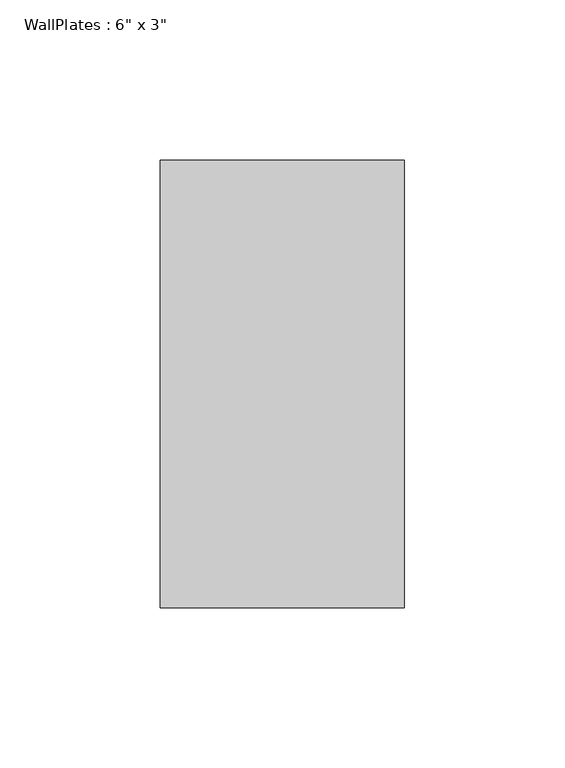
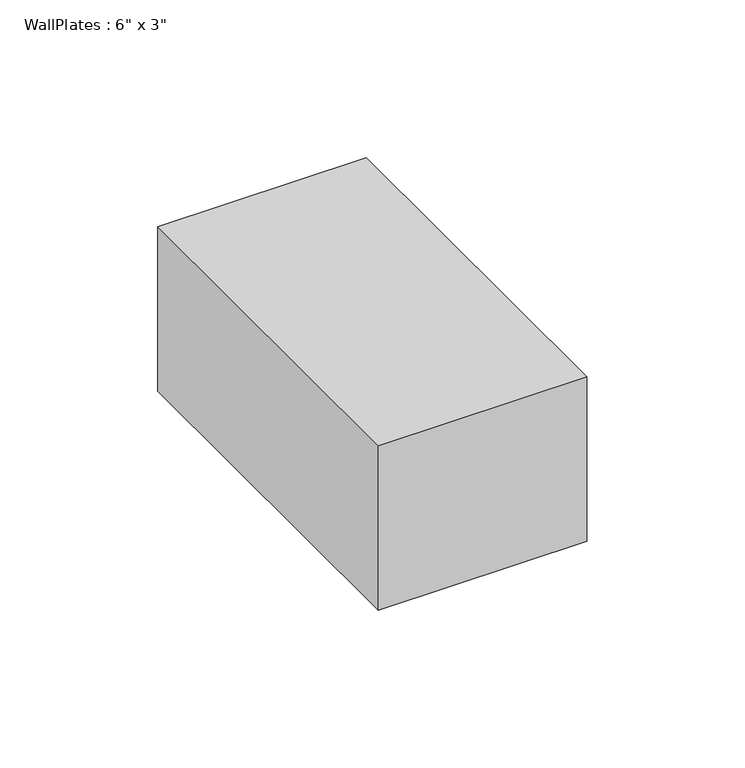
"""IFC4 building model written with IfcOpenShell, lengths in millimetres: beam geometry."""

import ifcopenshell
import ifcopenshell.guid

model = None  # the IFC model being written
_history = None  # IfcOwnerHistory: only IFC2X3 demands one
_inside = {}  # id of a spatial element -> (the spatial element, [elements in it])
_under = {}  # id of a project, library or spatial element -> (it, [spatial elements below it])
_declared = {}  # id of a project -> (the project, [libraries it declares])
_typed = {}  # id of a type object -> (the type object, [elements of that type])
_made_of = {}  # id of a material, layer set ... -> (it, [elements and type objects made of it])


def new_model(schema):
    """Start an empty IFC model of exactly this schema.

    Asked for "IFC4X3", IfcOpenShell would pick the latest addendum, in which some entities
    have other attributes; the version numbers below select the first issue.
    IFC2X3 requires an IfcOwnerHistory on every rooted entity: one is made here for all.
    """
    global model, _history
    if schema == "IFC4X3":
        model = ifcopenshell.file(schema_version=(4, 3, 0, 0))
    else:
        model = ifcopenshell.file(schema=schema)
    _inside.clear()
    _under.clear()
    _declared.clear()
    _typed.clear()
    _made_of.clear()
    _history = None
    if model.schema == "IFC2X3":
        org = make("IfcOrganization", Name="unknown")
        user = make(
            "IfcPersonAndOrganization",
            ThePerson=make("IfcPerson", FamilyName="unknown"),
            TheOrganization=org,
        )
        app = make(
            "IfcApplication",
            ApplicationDeveloper=org,
            Version="unknown",
            ApplicationFullName="unknown",
            ApplicationIdentifier="unknown",
        )
        _history = make(
            "IfcOwnerHistory",
            OwningUser=user,
            OwningApplication=app,
            ChangeAction="ADDED",
            CreationDate=0,
        )
    return model


def make(cls, **values):
    """One entity of the class cls with the attributes given. An attribute that is None is left unset."""
    return model.create_entity(
        cls, **{name: value for name, value in values.items() if value is not None}
    )


def rooted(cls, **values):
    """An entity with a GlobalId (a new one), such as an element, a storey or a relation."""
    return make(cls, GlobalId=ifcopenshell.guid.new(), OwnerHistory=_history, **values)


def si_unit(unit_type, name, prefix=None):
    """IfcSIUnit, for example si_unit("LENGTHUNIT", "METRE", prefix="MILLI")."""
    return make("IfcSIUnit", UnitType=unit_type, Prefix=prefix, Name=name)


def assignment(units):
    """IfcUnitAssignment: the units of a project."""
    return None if units is None else make("IfcUnitAssignment", Units=units)


def point(xyz):
    """IfcCartesianPoint."""
    return None if xyz is None else make("IfcCartesianPoint", Coordinates=xyz)


def direction(xyz):
    """IfcDirection."""
    return None if xyz is None else make("IfcDirection", DirectionRatios=xyz)


def frame(location, z_axis=None, x_axis=None):
    """IfcAxis2Placement3D, a coordinate frame: its origin and axes. An axis left out is left unset."""
    return make(
        "IfcAxis2Placement3D",
        Location=point(location),
        Axis=direction(z_axis),
        RefDirection=direction(x_axis),
    )


def origin():
    """The frame at (0, 0, 0) with its axes left unset."""
    return frame((0.0, 0.0, 0.0))


def place(relative_to, where):
    """IfcLocalPlacement: puts the frame where relative to a parent placement (None: the world)."""
    return make(
        "IfcLocalPlacement", PlacementRelTo=relative_to, RelativePlacement=where
    )


def context(
    kind, dimensions, precision=None, world=None, true_north=None, identifier=None
):
    """IfcGeometricRepresentationContext, for example the 3D "Model" context."""
    return make(
        "IfcGeometricRepresentationContext",
        ContextIdentifier=identifier,
        ContextType=kind,
        CoordinateSpaceDimension=dimensions,
        Precision=precision,
        WorldCoordinateSystem=world,
        TrueNorth=true_north,
    )


def project(units=None, contexts=None):
    """IfcProject with its units and contexts."""
    return rooted(
        "IfcProject",
        Name="project",
        RepresentationContexts=contexts,
        UnitsInContext=assignment(units),
    )


def spatial(cls, under=None, at=None, **own):
    """A site, building, storey or space (cls), placed at a placement, below another one or the project."""
    s = rooted(cls, ObjectPlacement=at, **own)
    if under is not None:
        _under.setdefault(under.id(), (under, []))[1].append(s)
    return s


def polyline(points):
    """IfcPolyline through the points."""
    return make("IfcPolyline", Points=[point(p) for p in points])


def outline(outer, holes=None, kind="AREA"):
    """IfcArbitraryClosedProfileDef: a profile drawn as a closed curve; with holes, ...WithVoids."""
    if holes is None:
        return make("IfcArbitraryClosedProfileDef", ProfileType=kind, OuterCurve=outer)
    return make(
        "IfcArbitraryProfileDefWithVoids",
        ProfileType=kind,
        OuterCurve=outer,
        InnerCurves=holes,
    )


def extrude(swept, where, along, depth):
    """IfcExtrudedAreaSolid: the profile swept, set in the frame where, extruded along a direction by depth."""
    return make(
        "IfcExtrudedAreaSolid",
        SweptArea=swept,
        Position=where,
        ExtrudedDirection=direction(along),
        Depth=depth,
    )


def shape(context_of_items, identifier, shape_type, items):
    """IfcShapeRepresentation: the items that make up one representation, for example the "Body"."""
    return make(
        "IfcShapeRepresentation",
        ContextOfItems=context_of_items,
        RepresentationIdentifier=identifier,
        RepresentationType=shape_type,
        Items=items,
    )


def source(mapping_origin, context_of_items, identifier, shape_type, items):
    """IfcRepresentationMap: a shape defined once, which mapped items show again and again."""
    return make(
        "IfcRepresentationMap",
        MappingOrigin=mapping_origin,
        MappedRepresentation=shape(context_of_items, identifier, shape_type, items),
    )


def transform(
    local_origin,
    x_axis=None,
    y_axis=None,
    z_axis=None,
    scale=None,
    scale2=None,
    scale3=None,
    uniform=True,
):
    """IfcCartesianTransformationOperator3D, or its non-uniform kind. x_axis, y_axis, z_axis: its Axis1, 2, 3."""
    if uniform:
        return make(
            "IfcCartesianTransformationOperator3D",
            Axis1=direction(x_axis),
            Axis2=direction(y_axis),
            LocalOrigin=point(local_origin),
            Scale=scale,
            Axis3=direction(z_axis),
        )
    return make(
        "IfcCartesianTransformationOperator3DnonUniform",
        Axis1=direction(x_axis),
        Axis2=direction(y_axis),
        LocalOrigin=point(local_origin),
        Scale=scale,
        Axis3=direction(z_axis),
        Scale2=scale2,
        Scale3=scale3,
    )


def mapped(mapping_source, mapping_target):
    """IfcMappedItem: shows the shape of a source again, moved by a transform."""
    return make(
        "IfcMappedItem", MappingSource=mapping_source, MappingTarget=mapping_target
    )


def made_of(thing, what):
    """Note that an element or type object is made of a material, layer set ...; save() writes the relation."""
    if what is not None:
        _made_of.setdefault(what.id(), (what, []))[1].append(thing)
    return thing


def element(
    cls,
    number,
    at=None,
    inside=None,
    cuts=None,
    type_object=None,
    material=None,
    context=None,
    identifier="Body",
    shape_type=None,
    held_by="IfcProductDefinitionShape",
    body=None,
    shapes=None,
    **own,
):
    """One element of the class cls, such as IfcWall. Its Tag is "e" and its number.

    at: its placement. inside: the storey or other place that contains it. cuts: it is an
    opening in that element (IfcRelVoidsElement). A single representation is given by context,
    identifier, shape_type and body (its items); several are given by shapes. held_by: the class
    of the entity that holds the representations. save() writes the other relations.
    """
    e = rooted(cls, Tag="e%d" % number, ObjectPlacement=at, **own)
    if body is not None:
        shapes = [shape(context, identifier, shape_type, body)]
    if shapes is not None:
        e.Representation = make(held_by, Representations=shapes)
    if inside is not None:
        _inside.setdefault(inside.id(), (inside, []))[1].append(e)
    if cuts is not None:
        rooted(
            "IfcRelVoidsElement", RelatingBuildingElement=cuts, RelatedOpeningElement=e
        )
    if type_object is not None:
        _typed.setdefault(type_object.id(), (type_object, []))[1].append(e)
    return made_of(e, material)


def aggregate(whole, parts):
    """IfcRelAggregates: a whole, such as a stair, and the parts it consists of."""
    return rooted("IfcRelAggregates", RelatingObject=whole, RelatedObjects=parts)


def save(model, path):
    """Write the relations noted so far, then the file.

    IfcRelAggregates (storeys below a building ...), IfcRelContainedInSpatialStructure (elements
    in a storey), IfcRelDefinesByType, IfcRelAssociatesMaterial and IfcRelDeclares: one each for
    every whole, place, type object, material and project.
    """
    for whole, parts in _under.values():
        aggregate(whole, parts)
    for where, things in _inside.values():
        rooted(
            "IfcRelContainedInSpatialStructure",
            RelatedElements=things,
            RelatingStructure=where,
        )
    for kind, things in _typed.values():
        rooted("IfcRelDefinesByType", RelatedObjects=things, RelatingType=kind)
    for what, things in _made_of.values():
        rooted("IfcRelAssociatesMaterial", RelatedObjects=things, RelatingMaterial=what)
    for by, libraries in _declared.values():
        rooted("IfcRelDeclares", RelatingContext=by, RelatedDefinitions=libraries)
    model.write(path)


def beam_901ff6e2(model_context):
    return source(origin(), model_context, "Body", "SweptSolid", [
        extrude(outline(polyline([(-38.115, -69.85), (-38.115, 69.85), (38.115, 69.85), (38.115, -69.85), (-38.115, -69.85)])), frame((0.0, 0.0, -31.75), z_axis=(0.0, 0.0, 1.0), x_axis=(1.0, 0.0, 0.0)), (0.0, 0.0, 1.0), 63.5),
    ])


if __name__ == "__main__":
    model = new_model("IFC4")
    model_context = context("Model", 3, world=origin())
    ifc_project = project(units=[si_unit("LENGTHUNIT", "METRE", prefix="MILLI")], contexts=[model_context])
    site = spatial("IfcSite", under=ifc_project)
    building = spatial("IfcBuilding", under=site)
    placement = place(None, origin())
    beam_shape = beam_901ff6e2(model_context)
    element("IfcBeam", 1, ObjectType="WallPlates : 6\" x 3\"", at=placement, inside=building, context=model_context, shape_type="MappedRepresentation", body=[
        mapped(beam_shape, transform((0.0, 0.0, 0.0), x_axis=(1.0, 0.0, 0.0), y_axis=(0.0, 1.0, 0.0), z_axis=(0.0, 0.0, 1.0))),
    ])
    save(model, "model.ifc")
